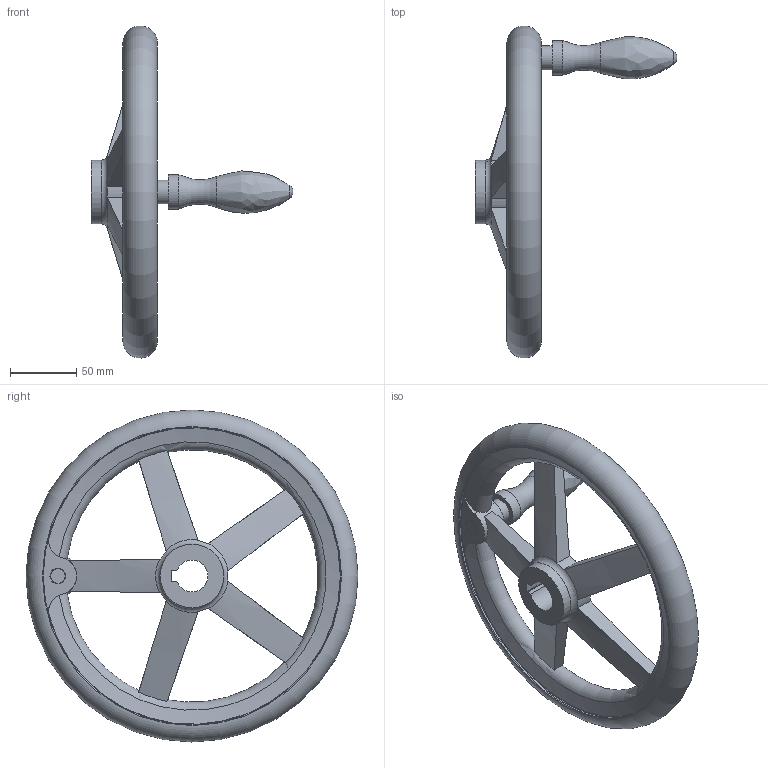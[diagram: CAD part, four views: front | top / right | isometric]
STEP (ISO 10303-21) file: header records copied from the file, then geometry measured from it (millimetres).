
FILE_DESCRIPTION( ( 'STEP AP203' ), '1' );
FILE_NAME( 'C:/Temp/Ganter_Step_05_03_2020/data/1_3/din_950/din_950_k/din_950_k_d/Handwheel DIN 950-AL-250-K24-D.stp', '2020-03-05T10:31:00', ( 'License CC BY-ND 4.0' ), ( 'CADENAS' ), ' ', 'PARTsolutions', ' ' );
FILE_SCHEMA( ( 'CONFIG_CONTROL_DESIGN' ) );
Length unit declared in the file: millimetre
Products named in the file (1): _Handwheel DIN 950-AL-250-K24-D
Bounding box: 152 x 249.92 x 249.92 mm (x, y, z)
Volume: 562783.6 mm3; surface area: 103068.8 mm2
Topology: 1 solids, 1 shells, 63 faces, 180 edges, 116 vertices
Faces by surface type: cylinder 19, plane 19, torus 13, cone 10, bspline 1, sphere 1
Full cylindrical faces by diameter (mm): 18 x1, 26 x1, 48 x2, 224 x2
Entity records: 2489 total; most frequent: CARTESIAN_POINT 958, ORIENTED_EDGE 310, DIRECTION 284, EDGE_CURVE 155, AXIS2_PLACEMENT_3D 128, VERTEX_POINT 112, EDGE_LOOP 91, FACE_OUTER_BOUND 78
